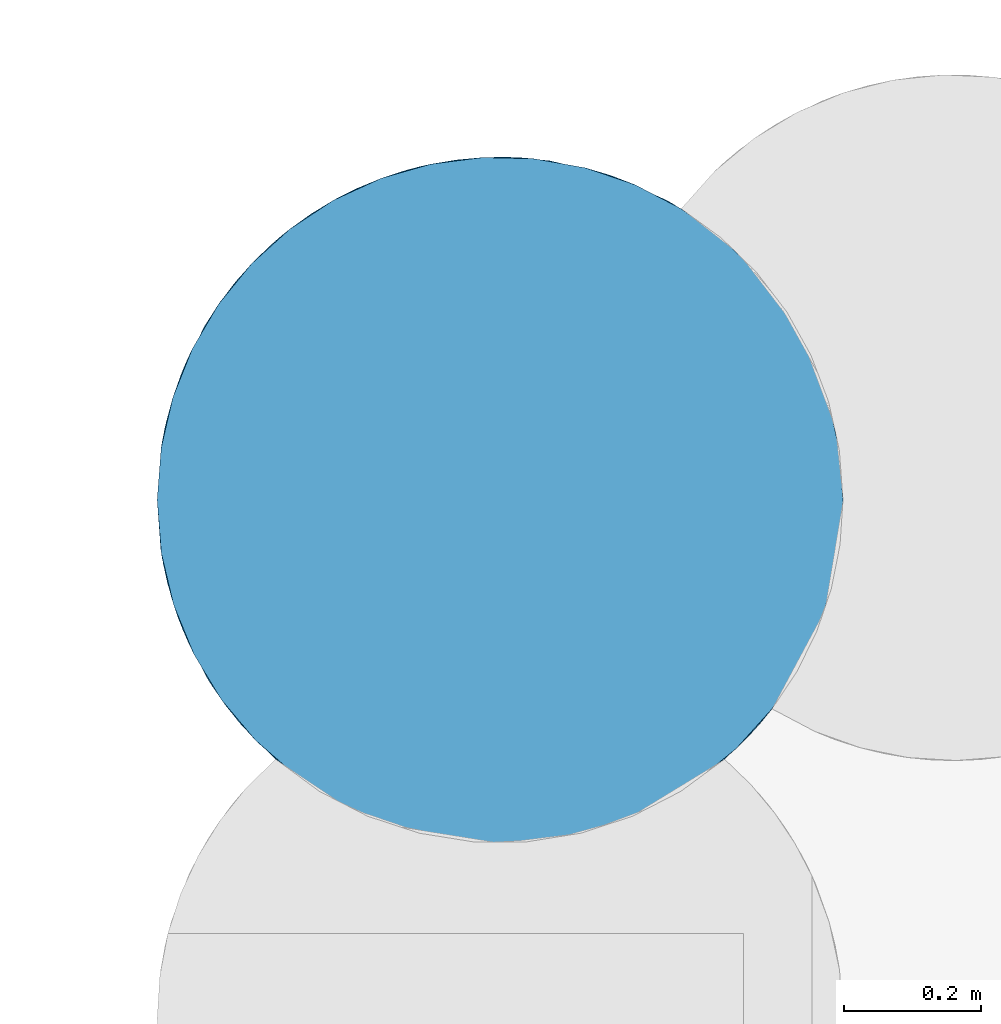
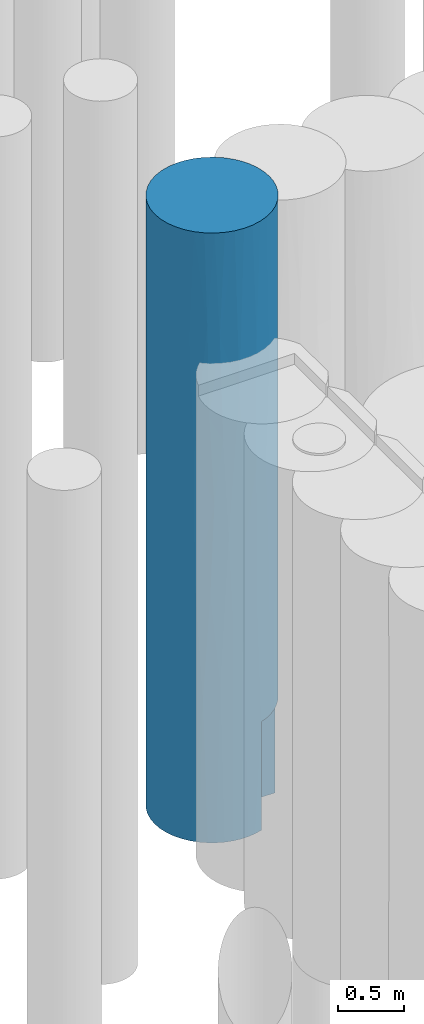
# One storey, part 26 of 104: 1 pile.
"""IFC2X3 building model written with IfcOpenShell, lengths in millimetres."""

import ifcopenshell
import ifcopenshell.guid

model = None  # the IFC model being written
_history = None  # IfcOwnerHistory: only IFC2X3 demands one
_inside = {}  # id of a spatial element -> (the spatial element, [elements in it])
_under = {}  # id of a project, library or spatial element -> (it, [spatial elements below it])
_declared = {}  # id of a project -> (the project, [libraries it declares])
_typed = {}  # id of a type object -> (the type object, [elements of that type])
_made_of = {}  # id of a material, layer set ... -> (it, [elements and type objects made of it])


def new_model(schema):
    """Start an empty IFC model of exactly this schema.

    Asked for "IFC4X3", IfcOpenShell would pick the latest addendum, in which some entities
    have other attributes; the version numbers below select the first issue.
    IFC2X3 requires an IfcOwnerHistory on every rooted entity: one is made here for all.
    """
    global model, _history
    if schema == "IFC4X3":
        model = ifcopenshell.file(schema_version=(4, 3, 0, 0))
    else:
        model = ifcopenshell.file(schema=schema)
    _inside.clear()
    _under.clear()
    _declared.clear()
    _typed.clear()
    _made_of.clear()
    _history = None
    if model.schema == "IFC2X3":
        org = make("IfcOrganization", Name="unknown")
        user = make(
            "IfcPersonAndOrganization",
            ThePerson=make("IfcPerson", FamilyName="unknown"),
            TheOrganization=org,
        )
        app = make(
            "IfcApplication",
            ApplicationDeveloper=org,
            Version="unknown",
            ApplicationFullName="unknown",
            ApplicationIdentifier="unknown",
        )
        _history = make(
            "IfcOwnerHistory",
            OwningUser=user,
            OwningApplication=app,
            ChangeAction="ADDED",
            CreationDate=0,
        )
    return model


def make(cls, **values):
    """One entity of the class cls with the attributes given. An attribute that is None is left unset."""
    return model.create_entity(
        cls, **{name: value for name, value in values.items() if value is not None}
    )


def entity(cls, *values):
    """Any entity or typed value of the class cls, its attributes in the order of the schema. None: left unset."""
    e = model.create_entity(cls)
    for i, value in enumerate(values):
        if value is not None:
            e[i] = value
    return e


def rooted(cls, **values):
    """An entity with a GlobalId (a new one), such as an element, a storey or a relation."""
    return make(cls, GlobalId=ifcopenshell.guid.new(), OwnerHistory=_history, **values)


def si_unit(unit_type, name, prefix=None):
    """IfcSIUnit, for example si_unit("LENGTHUNIT", "METRE", prefix="MILLI")."""
    return make("IfcSIUnit", UnitType=unit_type, Prefix=prefix, Name=name)


def converted_unit(unit_type, name, factor, base, dimensions=None, offset=None):
    """IfcConversionBasedUnit, such as the inch: factor (a typed value) times the base unit."""
    return make(
        "IfcConversionBasedUnit"
        if offset is None
        else "IfcConversionBasedUnitWithOffset",
        ConversionOffset=offset,
        Dimensions=None
        if dimensions is None
        else entity("IfcDimensionalExponents", *dimensions),
        UnitType=unit_type,
        Name=name,
        ConversionFactor=make(
            "IfcMeasureWithUnit", ValueComponent=factor, UnitComponent=base
        ),
    )


def derived_unit(unit_type, elements):
    """IfcDerivedUnit: a product of units, each with its exponent."""
    return make(
        "IfcDerivedUnit",
        Elements=[
            make("IfcDerivedUnitElement", Unit=unit, Exponent=power)
            for unit, power in elements
        ],
        UnitType=unit_type,
    )


def assignment(units):
    """IfcUnitAssignment: the units of a project."""
    return None if units is None else make("IfcUnitAssignment", Units=units)


def point(xyz):
    """IfcCartesianPoint."""
    return None if xyz is None else make("IfcCartesianPoint", Coordinates=xyz)


def direction(xyz):
    """IfcDirection."""
    return None if xyz is None else make("IfcDirection", DirectionRatios=xyz)


def frame(location, z_axis=None, x_axis=None):
    """IfcAxis2Placement3D, a coordinate frame: its origin and axes. An axis left out is left unset."""
    return make(
        "IfcAxis2Placement3D",
        Location=point(location),
        Axis=direction(z_axis),
        RefDirection=direction(x_axis),
    )


def origin():
    """The frame at (0, 0, 0) with its axes left unset."""
    return frame((0.0, 0.0, 0.0))


def place(relative_to, where):
    """IfcLocalPlacement: puts the frame where relative to a parent placement (None: the world)."""
    return make(
        "IfcLocalPlacement", PlacementRelTo=relative_to, RelativePlacement=where
    )


def context(
    kind, dimensions, precision=None, world=None, true_north=None, identifier=None
):
    """IfcGeometricRepresentationContext, for example the 3D "Model" context."""
    return make(
        "IfcGeometricRepresentationContext",
        ContextIdentifier=identifier,
        ContextType=kind,
        CoordinateSpaceDimension=dimensions,
        Precision=precision,
        WorldCoordinateSystem=world,
        TrueNorth=true_north,
    )


def subcontext(parent, identifier, kind, view, scale=None):
    """IfcGeometricRepresentationSubContext, for example "Body" below "Model"."""
    return make(
        "IfcGeometricRepresentationSubContext",
        ContextIdentifier=identifier,
        ContextType=kind,
        ParentContext=parent,
        TargetScale=scale,
        TargetView=view,
    )


def project(units=None, contexts=None):
    """IfcProject with its units and contexts."""
    return rooted(
        "IfcProject",
        Name="project",
        RepresentationContexts=contexts,
        UnitsInContext=assignment(units),
    )


def spatial(cls, under=None, at=None, **own):
    """A site, building, storey or space (cls), placed at a placement, below another one or the project."""
    s = rooted(cls, ObjectPlacement=at, **own)
    if under is not None:
        _under.setdefault(under.id(), (under, []))[1].append(s)
    return s


def faces_of(points, faces, orient=None, outer=None):
    """IfcFace entities. A face is a list of loops; a loop is a list of indices into points, from 0.

    orient and outer hold one flag for each loop. By default every Orientation is true, the
    first loop of a face is its IfcFaceOuterBound and the others are IfcFaceBound.
    """
    made = []
    for i, loops in enumerate(faces):
        bounds = []
        for j, loop in enumerate(loops):
            is_outer = j == 0 if outer is None else outer[i][j]
            bounds.append(
                make(
                    "IfcFaceOuterBound" if is_outer else "IfcFaceBound",
                    Bound=make("IfcPolyLoop", Polygon=[points[k] for k in loop]),
                    Orientation=True if orient is None else orient[i][j],
                )
            )
        made.append(make("IfcFace", Bounds=bounds))
    return made


def faceted_brep(points, faces, orient=None, outer=None, voids=None):
    """IfcFacetedBrep: a solid bounded by flat faces; with voids (closed shells), ...WithVoids."""
    shared = [point(p) for p in points]
    hull = make("IfcClosedShell", CfsFaces=faces_of(shared, faces, orient, outer))
    if voids is None:
        return make("IfcFacetedBrep", Outer=hull)
    return make(
        "IfcFacetedBrepWithVoids",
        Outer=hull,
        Voids=[
            make(cls, CfsFaces=faces_of(shared, fs, o, b)) for cls, fs, o, b in voids
        ],
    )


def shape(context_of_items, identifier, shape_type, items):
    """IfcShapeRepresentation: the items that make up one representation, for example the "Body"."""
    return make(
        "IfcShapeRepresentation",
        ContextOfItems=context_of_items,
        RepresentationIdentifier=identifier,
        RepresentationType=shape_type,
        Items=items,
    )


def source(mapping_origin, context_of_items, identifier, shape_type, items):
    """IfcRepresentationMap: a shape defined once, which mapped items show again and again."""
    return make(
        "IfcRepresentationMap",
        MappingOrigin=mapping_origin,
        MappedRepresentation=shape(context_of_items, identifier, shape_type, items),
    )


def transform(
    local_origin,
    x_axis=None,
    y_axis=None,
    z_axis=None,
    scale=None,
    scale2=None,
    scale3=None,
    uniform=True,
):
    """IfcCartesianTransformationOperator3D, or its non-uniform kind. x_axis, y_axis, z_axis: its Axis1, 2, 3."""
    if uniform:
        return make(
            "IfcCartesianTransformationOperator3D",
            Axis1=direction(x_axis),
            Axis2=direction(y_axis),
            LocalOrigin=point(local_origin),
            Scale=scale,
            Axis3=direction(z_axis),
        )
    return make(
        "IfcCartesianTransformationOperator3DnonUniform",
        Axis1=direction(x_axis),
        Axis2=direction(y_axis),
        LocalOrigin=point(local_origin),
        Scale=scale,
        Axis3=direction(z_axis),
        Scale2=scale2,
        Scale3=scale3,
    )


def mapped(mapping_source, mapping_target):
    """IfcMappedItem: shows the shape of a source again, moved by a transform."""
    return make(
        "IfcMappedItem", MappingSource=mapping_source, MappingTarget=mapping_target
    )


def material(Name=None, Category=None):
    """IfcMaterial."""
    return make("IfcMaterial", Name=Name, Category=Category)


def made_of(thing, what):
    """Note that an element or type object is made of a material, layer set ...; save() writes the relation."""
    if what is not None:
        _made_of.setdefault(what.id(), (what, []))[1].append(thing)
    return thing


def element(
    cls,
    number,
    at=None,
    inside=None,
    cuts=None,
    type_object=None,
    material=None,
    context=None,
    identifier="Body",
    shape_type=None,
    held_by="IfcProductDefinitionShape",
    body=None,
    shapes=None,
    **own,
):
    """One element of the class cls, such as IfcWall. Its Tag is "e" and its number.

    at: its placement. inside: the storey or other place that contains it. cuts: it is an
    opening in that element (IfcRelVoidsElement). A single representation is given by context,
    identifier, shape_type and body (its items); several are given by shapes. held_by: the class
    of the entity that holds the representations. save() writes the other relations.
    """
    e = rooted(cls, Tag="e%d" % number, ObjectPlacement=at, **own)
    if body is not None:
        shapes = [shape(context, identifier, shape_type, body)]
    if shapes is not None:
        e.Representation = make(held_by, Representations=shapes)
    if inside is not None:
        _inside.setdefault(inside.id(), (inside, []))[1].append(e)
    if cuts is not None:
        rooted(
            "IfcRelVoidsElement", RelatingBuildingElement=cuts, RelatedOpeningElement=e
        )
    if type_object is not None:
        _typed.setdefault(type_object.id(), (type_object, []))[1].append(e)
    return made_of(e, material)


def aggregate(whole, parts):
    """IfcRelAggregates: a whole, such as a stair, and the parts it consists of."""
    return rooted("IfcRelAggregates", RelatingObject=whole, RelatedObjects=parts)


def save(model, path):
    """Write the relations noted so far, then the file.

    IfcRelAggregates (storeys below a building ...), IfcRelContainedInSpatialStructure (elements
    in a storey), IfcRelDefinesByType, IfcRelAssociatesMaterial and IfcRelDeclares: one each for
    every whole, place, type object, material and project.
    """
    for whole, parts in _under.values():
        aggregate(whole, parts)
    for where, things in _inside.values():
        rooted(
            "IfcRelContainedInSpatialStructure",
            RelatedElements=things,
            RelatingStructure=where,
        )
    for kind, things in _typed.values():
        rooted("IfcRelDefinesByType", RelatedObjects=things, RelatingType=kind)
    for what, things in _made_of.values():
        rooted("IfcRelAssociatesMaterial", RelatedObjects=things, RelatingMaterial=what)
    for by, libraries in _declared.values():
        rooted("IfcRelDeclares", RelatingContext=by, RelatedDefinitions=libraries)
    model.write(path)


model = new_model("IFC2X3")

# Units and contexts
model_context = context("Model", 3, precision=0.01, world=origin(), true_north=direction((6.12303176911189e-17, 1.0)))
body_context = subcontext(model_context, "Body", "Model", "MODEL_VIEW")
ifc_project = project(units=[si_unit("LENGTHUNIT", "METRE", prefix="MILLI"), si_unit("AREAUNIT", "SQUARE_METRE", prefix="MILLI"), si_unit("VOLUMEUNIT", "CUBIC_METRE"), converted_unit("PLANEANGLEUNIT", "DEGREE", entity("IfcRatioMeasure", 0.0174532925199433), si_unit("PLANEANGLEUNIT", "RADIAN"), dimensions=[0, 0, 0, 0, 0, 0, 0]), si_unit("MASSUNIT", "GRAM", prefix="KILO"), derived_unit("MASSDENSITYUNIT", [(si_unit("MASSUNIT", "GRAM", prefix="KILO"), 1), (si_unit("LENGTHUNIT", "METRE"), -3)]), derived_unit("MOMENTOFINERTIAUNIT", [(si_unit("LENGTHUNIT", "METRE"), 4)]), si_unit("TIMEUNIT", "SECOND"), si_unit("FREQUENCYUNIT", "HERTZ"), si_unit("THERMODYNAMICTEMPERATUREUNIT", "DEGREE_CELSIUS"), derived_unit("THERMALTRANSMITTANCEUNIT", [(si_unit("MASSUNIT", "GRAM", prefix="KILO"), 1), (si_unit("THERMODYNAMICTEMPERATUREUNIT", "KELVIN"), -1), (si_unit("TIMEUNIT", "SECOND"), -3)]), derived_unit("VOLUMETRICFLOWRATEUNIT", [(si_unit("LENGTHUNIT", "METRE"), 3), (si_unit("TIMEUNIT", "SECOND"), -1)]), si_unit("ELECTRICCURRENTUNIT", "AMPERE"), si_unit("ELECTRICVOLTAGEUNIT", "VOLT"), si_unit("POWERUNIT", "WATT"), si_unit("FORCEUNIT", "NEWTON", prefix="KILO"), si_unit("ILLUMINANCEUNIT", "LUX"), si_unit("LUMINOUSFLUXUNIT", "LUMEN"), si_unit("LUMINOUSINTENSITYUNIT", "CANDELA"), derived_unit("USERDEFINED", [(si_unit("MASSUNIT", "GRAM", prefix="KILO"), -1), (si_unit("LENGTHUNIT", "METRE"), -2), (si_unit("TIMEUNIT", "SECOND"), 3), (si_unit("LUMINOUSFLUXUNIT", "LUMEN"), 1)]), derived_unit("LINEARVELOCITYUNIT", [(si_unit("LENGTHUNIT", "METRE"), 1), (si_unit("TIMEUNIT", "SECOND"), -1)]), si_unit("PRESSUREUNIT", "PASCAL"), derived_unit("USERDEFINED", [(si_unit("LENGTHUNIT", "METRE"), -2), (si_unit("MASSUNIT", "GRAM", prefix="KILO"), 1), (si_unit("TIMEUNIT", "SECOND"), -2)]), derived_unit("LINEARFORCEUNIT", [(si_unit("MASSUNIT", "GRAM", prefix="KILO"), 1), (si_unit("LENGTHUNIT", "METRE"), 1), (si_unit("TIMEUNIT", "SECOND"), -2), (si_unit("LENGTHUNIT", "METRE"), -1)]), derived_unit("PLANARFORCEUNIT", [(si_unit("MASSUNIT", "GRAM", prefix="KILO"), 1), (si_unit("LENGTHUNIT", "METRE"), 1), (si_unit("TIMEUNIT", "SECOND"), -2), (si_unit("LENGTHUNIT", "METRE"), -2)])], contexts=[model_context])

# Site, building, storey
site_placement = place(None, origin())
site = spatial("IfcSite", under=ifc_project, at=site_placement, Name="Theater aan de Parade", CompositionType="ELEMENT")
building_placement = place(site_placement, origin())
building = spatial("IfcBuilding", under=site, at=building_placement, Name="Theater aan de Parade", CompositionType="ELEMENT")
storey_placement = place(building_placement, frame((0.0, 0.0, -5520.0)))
storey = spatial("IfcBuildingStorey", under=building, at=storey_placement, Name="-2 kelder", CompositionType="ELEMENT", Elevation=-5520.0)

# Pile
ifc_material = material(Name="00_PBT_MAT_grout")
shared_shape = source(origin(), body_context, "Body", "Brep", [
    faceted_brep([(626.511401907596, 985.670403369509, 0.0), (698.348568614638, 961.186734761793, 0.0), (765.651542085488, 926.104766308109, 0.0), (824.194755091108, 883.533132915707, 0.0), (875.975440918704, 832.946249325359, 0.0), (919.909432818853, 775.411330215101, 0.0), (955.075720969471, 712.133251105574, 0.0), (980.736529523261, 644.43719323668, 0.0), (996.352367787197, 573.743677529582, 0.0), (1001.59527223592, 501.525837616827, 0.0), (999.057574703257, 451.214232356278, 0.0), (991.493220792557, 401.525837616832, 0.0), (656.737142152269, 401.525837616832, 0.0), (656.737142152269, 26.2038412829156, 0.0), (594.456891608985, 10.2247897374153, 0.0), (530.660993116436, 2.37136866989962, 0.0), (466.388925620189, 2.76686460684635, 0.0), (402.704209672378, 11.4028349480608, 0.0), (340.656023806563, 28.1353451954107, 0.0), (281.266559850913, 52.6881626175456, 0.0), (225.514551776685, 84.6572302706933, 0.0), (174.326451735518, 123.511903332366, 0.0), (123.836402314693, 173.961742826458, 0.0), (81.0484958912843, 231.081002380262, 0.0), (46.8276889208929, 293.712351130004, 0.0), (21.8718900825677, 360.580895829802, 0.0), (6.6911071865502, 430.322836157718, 0.0), (1.5952722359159, 501.525837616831, 0.0), (7.35645900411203, 577.209359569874, 0.0), (24.5066670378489, 651.146901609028, 0.0), (52.6505184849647, 721.636282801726, 0.0), (91.1390710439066, 787.052906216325, 0.0), (139.085162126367, 845.889627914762, 0.0), (195.383786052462, 896.79097107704, 0.0), (258.737561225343, 938.584337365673, 0.0), (327.686625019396, 970.307004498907, 0.0), (400.642267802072, 991.228289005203, 0.0), (475.923531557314, 1000.86636444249, 0.0), (551.795930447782, 998.999348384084, 0.0), (990.006052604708, 608.553449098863, 3277.63351599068), (1001.59527223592, 501.525837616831, 2496.92455050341), (993.870528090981, 589.076237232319, 2029.23110929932), (765.649520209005, 926.114290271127, 5620.0), (795.693790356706, 905.884665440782, 4790.08481947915), (698.34856887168, 961.186734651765, 5620.0), (795.693790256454, 905.884665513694, 1020.50322451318), (898.985057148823, 804.974941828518, 1020.5018762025), (955.075720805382, 712.133251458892, 5620.0), (980.736529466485, 644.437193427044, 5620.0), (969.132971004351, 678.750272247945, 4344.4807232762), (962.149585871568, 696.178667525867, 828.821977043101), (898.985056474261, 804.974942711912, 4344.48410465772), (261.213247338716, 939.950839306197, 3849.54657365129), (226.266528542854, 918.891484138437, 4729.46014615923), (363.766912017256, 982.153909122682, 4226.85810753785), (824.194754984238, 883.533133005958, 5620.0), (875.975440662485, 832.946249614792, 5620.0), (1.59527223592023, 501.525837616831, 4058.45414133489), (12.6641391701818, 606.150629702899, 3590.76885376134), (1.59527223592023, 501.525837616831, 3123.07334771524), (662.895201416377, 974.793555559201, 1383.32456024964), (851.00179188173, 859.178020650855, 1862.52694247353), (43.1591717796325, 701.116272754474, 821.66941761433), (113.994098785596, 817.382340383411, 970.696283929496), (94.105810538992, 791.271137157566, 4512.19930879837), (139.085162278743, 845.889628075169, 5620.0), (166.267253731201, 872.41007832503, 4032.59876495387), (969.132971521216, 678.750270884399, 1655.19860056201), (921.314726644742, 773.252869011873, 1986.61050349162), (37.2391225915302, 686.926393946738, 4334.70958619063), (9.55919273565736, 590.410574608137, 4522.14920423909), (438.099762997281, 997.477771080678, 970.681124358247), (533.268606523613, 1000.52162907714, 865.810556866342), (180.899948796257, 885.133071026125, 865.815342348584), (1001.59527223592, 501.525837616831, 1561.5377247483), (996.352367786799, 573.743677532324, 5620.0), (994.225112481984, 587.058524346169, 4448.84672243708), (11.6394147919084, 601.241722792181, 2449.51980988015), (989.825641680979, 609.37344469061, 928.034083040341), (166.267253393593, 872.410078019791, 1730.1515841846), (292.609312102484, 955.755810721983, 2810.0), (292.609312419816, 955.755810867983, 1383.32353463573), (662.89520195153, 974.793555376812, 4241.05359510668), (626.511402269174, 985.670403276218, 5620.0), (1001.59527223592, 501.525837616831, 5620.0), (1001.59527223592, 501.525837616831, 4839.23113762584), (753.637000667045, 933.353311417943, 2069.8129869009), (818.583891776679, 888.201690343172, 2857.25413338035), (919.909432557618, 775.411330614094, 5620.0), (327.686625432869, 970.307004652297, 5620.0), (400.642268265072, 991.228289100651, 5620.0), (573.681403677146, 996.302140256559, 3160.68107396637), (513.895205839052, 1001.37452635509, 1730.13346242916), (482.039249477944, 1001.1432532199, 2810.0), (391.596142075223, 989.275969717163, 2070.18011223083), (513.895206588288, 1001.37452633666, 3889.86653989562), (513.895206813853, 1001.3745263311, 4790.13795690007), (938.639305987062, 744.409580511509, 3206.722569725), (879.913699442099, 828.443514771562, 3418.19150221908), (1001.59527223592, 501.525837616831, 4058.4622752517), (1001.59527223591, 501.525837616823, 2810.0), (662.895200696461, 974.793555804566, 2810.0), (14.5265619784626, 614.50402793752, 938.93686052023), (37.2391225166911, 686.926393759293, 1657.33951636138), (24.5066670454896, 651.146901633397, 5620.0), (52.6505185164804, 721.636282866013, 5620.0), (385.09263500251, 987.763573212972, 2985.82151050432), (743.63337391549, 939.038760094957, 3197.32308554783), (795.693789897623, 905.884665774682, 3895.89643053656), (118.063126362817, 822.310957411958, 2767.08555234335), (184.846558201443, 888.39823538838, 2881.37517397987), (475.923532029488, 1000.86636446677, 5620.0), (551.795930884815, 998.999348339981, 5620.0), (1.5952722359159, 501.525837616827, 1561.5458586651), (70.6517329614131, 755.075962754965, 3200.47944417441), (90.4737259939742, 786.094061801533, 2001.93546624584), (258.737561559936, 938.584337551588, 5620.0), (1.59527223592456, 501.525837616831, 2342.30276868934), (195.383786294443, 896.790971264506, 5620.0), (1.59527223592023, 501.525837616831, 5620.0), (7.35645900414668, 577.209359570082, 5620.0), (91.1390711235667, 787.052906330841, 5620.0), (1001.59527223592, 501.525837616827, 1405.0), (973.423229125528, 666.989969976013, 2558.46544591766), (33.1551035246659, 326.700758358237, 960.469679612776), (608.978305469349, 13.1930779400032, 4524.7787076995), (570.746089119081, 6.33076037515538, 5620.0), (493.26281774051, 1.5952722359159, 5620.0), (873.276546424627, 167.081476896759, 4464.67717976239), (847.545227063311, 140.529121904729, 3304.20619293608), (918.737382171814, 225.858537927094, 3074.55446911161), (195.341582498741, 106.293402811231, 1316.25936208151), (454.479386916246, 3.75069425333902, 4130.34205734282), (304.495559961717, 42.0133748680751, 4651.41490039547), (329.265224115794, 32.1620613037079, 3702.11361077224), (11.0809403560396, 404.594469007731, 1467.96661603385), (33.1551035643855, 326.700758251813, 1975.46355215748), (101.422024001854, 201.756974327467, 1270.95865621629), (310.566414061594, 39.4566054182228, 1451.57263508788), (241.404033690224, 74.5591885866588, 2287.31475230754), (608.978305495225, 13.1930779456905, 3372.83975588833), (711.338936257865, 47.645241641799, 3338.54149081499), (405.542555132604, 10.8386913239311, 1012.64439300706), (991.493220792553, 401.525837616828, 1000.0), (985.033760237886, 373.904411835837, 1905.72270766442), (646.562446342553, 23.0025691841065, 5620.0), (898.112452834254, 196.937384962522, 1000.0), (943.959446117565, 268.472329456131, 1905.68979461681), (882.206138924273, 177.279992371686, 2187.18110523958), (967.484410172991, 320.01189558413, 2691.07243557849), (993.07204218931, 409.598776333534, 2694.37488322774), (846.198364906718, 139.243201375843, 5620.0), (785.968704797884, 90.2695296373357, 5620.0), (498.518597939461, 1.53530363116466, 1548.20163235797), (145.800970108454, 150.227652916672, 3571.96854813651), (221.703435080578, 87.2064445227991, 4768.05777585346), (118.968489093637, 179.661355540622, 4623.29054945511), (747.68183390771, 66.2771682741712, 2417.1370083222), (814.92674779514, 111.880631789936, 1895.81627781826), (9.13272474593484, 415.035148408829, 4637.24300930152), (25.5549025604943, 348.602437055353, 5620.0), (38.8626554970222, 312.109562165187, 4623.29036328), (54.9631407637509, 276.759872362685, 5620.0), (718.28194793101, 50.9185977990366, 1000.0), (613.368977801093, 14.1793092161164, 2150.72172118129), (10.2821393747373, 408.728178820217, 2324.92828668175), (29.9884053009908, 335.432601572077, 2836.99781315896), (16.6394448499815, 379.797264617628, 3590.76885428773), (502.302531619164, 1.52633783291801, 2727.65427948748), (95.1372952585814, 210.335327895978, 5620.0), (73.7591607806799, 242.766757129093, 3841.58611254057), (407.369784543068, 10.4845384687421, 1943.2126744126), (656.737142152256, 26.2038412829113, 1000.0), (988.91370210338, 389.629689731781, 4503.84986100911), (982.269017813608, 363.856849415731, 3564.06786310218), (145.108940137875, 150.929923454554, 5620.0), (235.744131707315, 78.0601706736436, 3905.90028182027), (269.419247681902, 58.7004842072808, 5620.0), (340.761414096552, 28.0995285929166, 5620.0), (415.980309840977, 8.91028953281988, 5620.0), (963.474818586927, 310.038802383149, 5620.0), (949.953112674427, 280.222319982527, 4143.72436690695), (997.307462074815, 436.185001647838, 5620.0), (865.326338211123, 158.451921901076, 1000.0), (956.45445670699, 293.912923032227, 1000.0), (930.042944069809, 243.780629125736, 1000.0), (977.018270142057, 346.693757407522, 1000.0), (753.185746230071, 69.4352991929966, 4233.98085215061), (718.88440131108, 51.2087999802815, 5620.0), (984.527937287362, 372.003480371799, 5620.0), (775.998703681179, 83.5512489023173, 1000.0), (203.673491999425, 99.9755756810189, 5620.0), (828.882089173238, 123.526711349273, 1000.0), (148.173703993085, 147.840673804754, 2407.75917259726), (898.112452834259, 196.937384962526, 5620.0), (934.509100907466, 251.3546623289, 5620.0), (77.0902236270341, 237.337526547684, 2501.25401500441), (371.411011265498, 18.7711812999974, 2809.9463225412), (266.972417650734, 59.9920154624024, 3107.9800973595), (7.6215117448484, 424.131238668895, 5620.0), (656.737142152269, 401.525837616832, 1000.0)], [[[0, 1, 2, 3, 4, 5, 6, 7, 8, 9, 10, 11, 12, 13, 14, 15, 16, 17, 18, 19, 20, 21, 22, 23, 24, 25, 26, 27, 28, 29, 30, 31, 32, 33, 34, 35, 36, 37, 38]], [[39, 40, 41]], [[42, 43, 44]], [[3, 45, 46]], [[47, 48, 49]], [[46, 5, 4]], [[50, 5, 46]], [[47, 49, 51]], [[52, 53, 54]], [[42, 55, 43]], [[43, 56, 51]], [[57, 58, 59]], [[1, 0, 60]], [[45, 61, 46]], [[62, 63, 31]], [[64, 65, 66]], [[1, 60, 45]], [[67, 50, 68]], [[45, 3, 2]], [[69, 58, 70]], [[37, 71, 72]], [[73, 33, 32]], [[74, 41, 40]], [[3, 46, 4]], [[71, 37, 36]], [[75, 76, 48]], [[77, 59, 58]], [[78, 8, 7]], [[79, 80, 81]], [[72, 38, 37]], [[82, 83, 44]], [[75, 84, 85]], [[61, 86, 87]], [[51, 88, 47]], [[88, 51, 56]], [[54, 89, 90]], [[91, 92, 93]], [[82, 44, 43]], [[92, 94, 93]], [[82, 95, 96]], [[49, 97, 51]], [[96, 83, 82]], [[61, 98, 68]], [[81, 35, 34]], [[50, 7, 6]], [[71, 92, 72]], [[98, 51, 97]], [[39, 99, 100, 40]], [[92, 101, 60]], [[32, 63, 73]], [[9, 8, 78]], [[62, 102, 103]], [[71, 94, 92]], [[34, 33, 73]], [[69, 104, 105]], [[102, 62, 29]], [[95, 93, 106]], [[82, 101, 91]], [[97, 49, 39]], [[50, 78, 7]], [[107, 82, 108]], [[54, 106, 52]], [[70, 104, 69]], [[109, 66, 110]], [[111, 112, 96]], [[54, 90, 96]], [[111, 96, 90]], [[76, 75, 85]], [[73, 63, 79]], [[89, 54, 53]], [[27, 113, 102]], [[114, 69, 64]], [[63, 115, 79]], [[89, 53, 116]], [[77, 113, 117, 59]], [[118, 53, 65]], [[119, 120, 70]], [[58, 57, 70]], [[121, 64, 105]], [[69, 105, 64]], [[79, 110, 80]], [[0, 38, 72]], [[102, 29, 28]], [[45, 86, 61]], [[35, 81, 71]], [[51, 108, 43]], [[63, 32, 31]], [[68, 46, 61]], [[50, 67, 78]], [[1, 45, 2]], [[86, 45, 60]], [[35, 71, 36]], [[94, 71, 81]], [[62, 31, 30]], [[63, 62, 115]], [[41, 78, 67]], [[78, 74, 122, 9]], [[27, 102, 28]], [[77, 102, 113]], [[43, 55, 56]], [[82, 43, 108]], [[96, 112, 83]], [[54, 96, 95]], [[69, 114, 58]], [[77, 114, 103]], [[81, 80, 94]], [[106, 93, 94]], [[60, 101, 86]], [[87, 107, 108]], [[103, 114, 115]], [[109, 115, 114]], [[114, 77, 58]], [[77, 103, 102]], [[78, 41, 74]], [[41, 123, 39]], [[41, 67, 123]], [[49, 76, 39]], [[68, 123, 67]], [[97, 39, 123]], [[98, 61, 87]], [[123, 68, 97]], [[94, 80, 106]], [[91, 93, 95]], [[107, 86, 101]], [[108, 51, 98]], [[119, 70, 57]], [[104, 70, 120]], [[92, 60, 72]], [[0, 72, 60]], [[79, 81, 73]], [[34, 73, 81]], [[5, 50, 6]], [[68, 50, 46]], [[62, 103, 115]], [[29, 62, 30]], [[86, 107, 87]], [[82, 107, 101]], [[52, 106, 80]], [[95, 106, 54]], [[82, 91, 95]], [[92, 91, 101]], [[79, 115, 109]], [[52, 110, 66]], [[110, 52, 80]], [[53, 118, 116]], [[52, 66, 53]], [[65, 53, 66]], [[76, 85, 99]], [[39, 76, 99]], [[76, 49, 48]], [[65, 64, 121]], [[114, 64, 66]], [[68, 98, 97]], [[108, 98, 87]], [[66, 109, 114]], [[79, 109, 110]], [[26, 25, 124]], [[125, 126, 127]], [[128, 129, 130]], [[19, 131, 20]], [[132, 133, 134]], [[135, 124, 136]], [[124, 24, 23]], [[23, 22, 137]], [[131, 138, 139]], [[125, 140, 141]], [[142, 138, 18]], [[143, 122, 144]], [[137, 136, 124]], [[126, 125, 145]], [[18, 138, 19]], [[146, 147, 148]], [[130, 147, 149]], [[18, 17, 142]], [[138, 131, 19]], [[150, 122, 74, 40, 100]], [[128, 151, 152]], [[15, 153, 16]], [[25, 24, 124]], [[154, 155, 156]], [[26, 124, 135]], [[157, 158, 129]], [[119, 57, 159]], [[160, 161, 162]], [[124, 23, 137]], [[163, 157, 164]], [[165, 166, 167]], [[164, 168, 153]], [[156, 169, 162]], [[170, 156, 161]], [[142, 171, 138]], [[164, 153, 172]], [[99, 173, 174]], [[156, 175, 169]], [[155, 175, 156]], [[155, 176, 133]], [[177, 133, 178]], [[148, 147, 130]], [[133, 179, 178]], [[180, 181, 173]], [[127, 179, 132]], [[155, 154, 176]], [[153, 15, 172]], [[154, 156, 170]], [[13, 172, 14]], [[167, 161, 159]], [[173, 84, 182]], [[22, 21, 131]], [[183, 148, 158]], [[135, 165, 113]], [[156, 162, 161]], [[184, 147, 185]], [[147, 184, 186]], [[128, 152, 187]], [[143, 11, 10]], [[27, 26, 113]], [[125, 188, 145]], [[10, 9, 122]], [[144, 186, 143]], [[153, 142, 16]], [[150, 149, 144]], [[186, 144, 147]], [[173, 189, 180]], [[183, 146, 148]], [[187, 125, 141]], [[144, 149, 147]], [[190, 157, 163]], [[10, 122, 143]], [[155, 177, 191]], [[190, 192, 158]], [[187, 129, 128]], [[125, 187, 188]], [[137, 131, 193]], [[193, 131, 139]], [[183, 158, 192]], [[127, 132, 125]], [[152, 188, 187]], [[151, 128, 194]], [[128, 195, 194]], [[170, 166, 196]], [[141, 129, 187]], [[195, 128, 181]], [[168, 132, 197]], [[150, 174, 149]], [[147, 146, 185]], [[141, 164, 157]], [[180, 195, 181]], [[148, 130, 129]], [[173, 182, 189]], [[161, 160, 159]], [[132, 140, 125]], [[172, 15, 14]], [[196, 137, 193]], [[193, 198, 154]], [[159, 160, 199]], [[167, 57, 59]], [[134, 133, 176]], [[179, 133, 132]], [[165, 135, 136]], [[170, 161, 167]], [[196, 154, 170]], [[198, 193, 139]], [[198, 134, 176]], [[132, 134, 197]], [[22, 131, 137]], [[20, 131, 21]], [[122, 150, 144]], [[174, 100, 99]], [[113, 165, 59, 117]], [[26, 135, 113]], [[166, 165, 136]], [[59, 165, 167]], [[196, 166, 136]], [[170, 167, 166]], [[137, 196, 136]], [[196, 193, 154]], [[138, 197, 139]], [[197, 134, 198]], [[154, 198, 176]], [[197, 198, 139]], [[174, 130, 149]], [[128, 130, 181]], [[177, 155, 133]], [[155, 191, 175]], [[164, 172, 163]], [[168, 164, 140]], [[132, 168, 140]], [[171, 168, 197]], [[16, 142, 17]], [[171, 142, 153]], [[168, 171, 153]], [[138, 171, 197]], [[130, 174, 181]], [[173, 99, 85, 84]], [[174, 150, 100]], [[181, 174, 173]], [[129, 158, 148]], [[190, 158, 157]], [[164, 141, 140]], [[129, 141, 157]], [[119, 159, 199]], [[167, 159, 57]], [[42, 44, 83, 112, 111, 90, 89, 116, 118, 65, 121, 105, 104, 120, 119, 199, 160, 162, 169, 175, 191, 177, 178, 179, 127, 126, 145, 188, 152, 151, 194, 195, 180, 189, 182, 84, 75, 48, 47, 88, 56, 55]], [[200, 143, 186, 184, 185, 146, 183, 192, 190, 163, 172]], [[200, 172, 13, 12]], [[143, 200, 12, 11]]]),
])
pile_placement = place(storey_placement, frame((34348.2628578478, 26640.8415657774, -3840.0)))
element("IfcPile", 1, at=pile_placement, inside=storey, material=ifc_material, Name="17_PBT_SFO_grondkering_rond:Ø1000 (grondkering)", ObjectType="17_PBT_SFO_grondkering_rond:Ø1000 (grondkering)", PredefinedType="NOTDEFINED", context=body_context, shape_type="MappedRepresentation", body=[
    mapped(shared_shape, transform((0.0, 0.0, 0.0), scale=1.0)),
])

save(model, "model.ifc")
